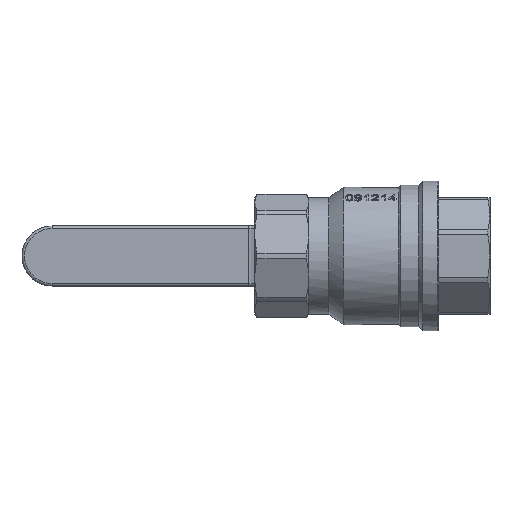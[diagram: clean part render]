
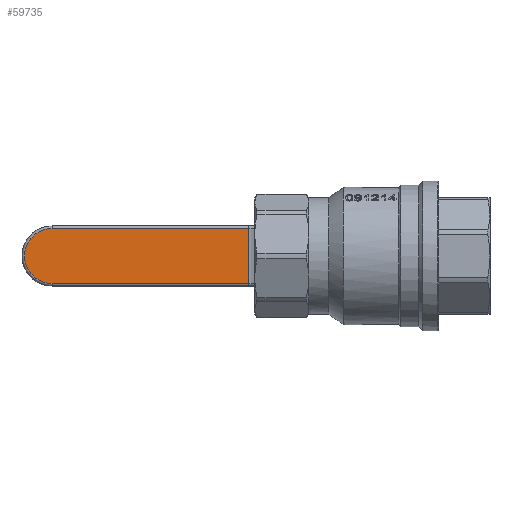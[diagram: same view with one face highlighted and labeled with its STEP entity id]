
A CAD part, front view. The second image highlights one B-rep face of the part: STEP entity #59735.
In plain terms, the highlighted planar face has unit normal (0, -1, 0).
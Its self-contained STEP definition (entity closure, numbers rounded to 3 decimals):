
#59667=CARTESIAN_POINT('',(-49.489,72.2,-11.0));
#59668=VERTEX_POINT('',#59667);
#59669=CARTESIAN_POINT('',(-49.489,72.2,11.0));
#59670=VERTEX_POINT('',#59669);
#59671=CARTESIAN_POINT('',(-49.489,72.2,-11.0));
#59672=DIRECTION('',(0.0,0.0,1.0));
#59673=VECTOR('',#59672,22.0);
#59674=LINE('',#59671,#59673);
#59675=EDGE_CURVE('',#59668,#59670,#59674,.T.);
#59704=CARTESIAN_POINT('',(-45.486,72.2,-23.5));
#59705=DIRECTION('',(0.0,1.0,0.0));
#59706=DIRECTION('',(0.0,0.0,-1.0));
#59707=AXIS2_PLACEMENT_3D('',#59704,#59705,#59706);
#59708=PLANE('',#59707);
#59709=ORIENTED_EDGE('',*,*,#59675,.T.);
#59710=CARTESIAN_POINT('',(-128.0,72.2,11.0));
#59711=VERTEX_POINT('',#59710);
#59712=CARTESIAN_POINT('',(-49.489,72.2,11.0));
#59713=DIRECTION('',(-1.0,0.0,0.0));
#59714=VECTOR('',#59713,78.511);
#59715=LINE('',#59712,#59714);
#59716=EDGE_CURVE('',#59670,#59711,#59715,.T.);
#59717=ORIENTED_EDGE('',*,*,#59716,.T.);
#59718=CARTESIAN_POINT('',(-128.0,72.2,-11.0));
#59719=VERTEX_POINT('',#59718);
#59720=CARTESIAN_POINT('',(-128.,72.2,0.));
#59721=DIRECTION('',(0.0,-1.0,0.0));
#59722=DIRECTION('',(0.0,0.0,1.0));
#59723=AXIS2_PLACEMENT_3D('',#59720,#59721,#59722);
#59724=CIRCLE('',#59723,11.0);
#59725=EDGE_CURVE('',#59711,#59719,#59724,.T.);
#59726=ORIENTED_EDGE('',*,*,#59725,.T.);
#59727=CARTESIAN_POINT('',(-128.0,72.2,-11.0));
#59728=DIRECTION('',(1.0,0.0,0.0));
#59729=VECTOR('',#59728,78.511);
#59730=LINE('',#59727,#59729);
#59731=EDGE_CURVE('',#59719,#59668,#59730,.T.);
#59732=ORIENTED_EDGE('',*,*,#59731,.T.);
#59733=EDGE_LOOP('',(#59709,#59717,#59726,#59732));
#59734=FACE_OUTER_BOUND('',#59733,.T.);
#59735=ADVANCED_FACE('',(#59734),#59708,.F.);
